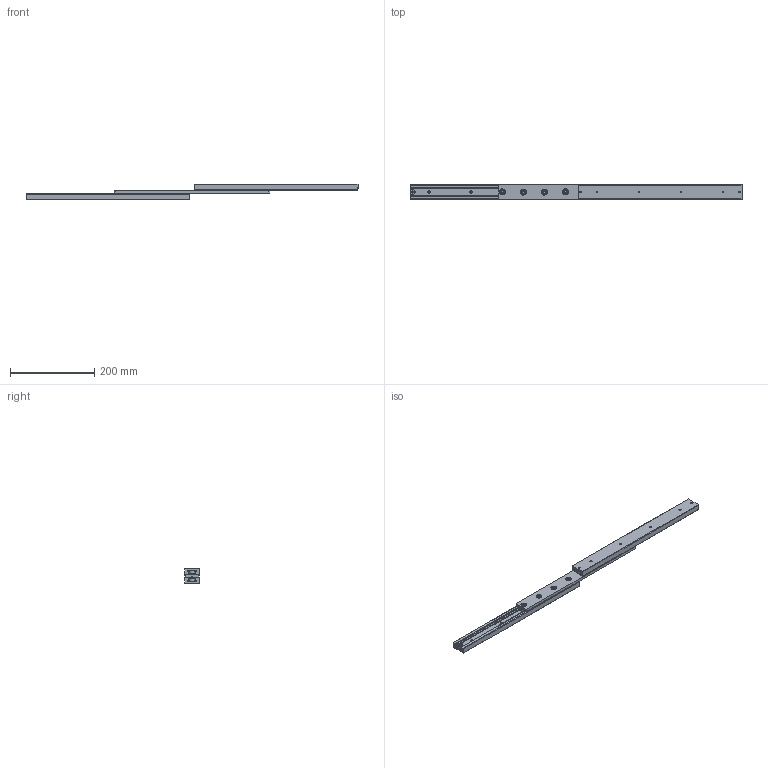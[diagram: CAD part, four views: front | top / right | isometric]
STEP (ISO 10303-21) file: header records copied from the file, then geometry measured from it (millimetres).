
FILE_DESCRIPTION (( 'STEP AP214' ), '1' );
FILE_NAME ('LSIM35DFL.STEP', '2021-06-14T01:46:36', ( '' ), ( '' ), 'SwSTEP 2.0', 'SolidWorks 2019', '' );
FILE_SCHEMA (( 'AUTOMOTIVE_DESIGN' ));
Length unit declared in the file: millimetre
Products named in the file (4): LSIM35DFLリテーナ; LSIM35DFL; LSIM35DFLレール; LSIM35ストッパー
Assembly tree (7 placements, depth 2):
  LSIM35DFL
    LSIM35DFLリテーナ
    LSIM35DFLレール  x2
    LSIM35ストッパー  x4
Bounding box: 790 x 35 x 37.5 mm (x, y, z)
Volume: 353206.1 mm3; surface area: 136680.4 mm2
Topology: 7 solids, 7 shells, 448 faces, 962 edges, 608 vertices
Faces by surface type: plane 212, cylinder 124, cone 104, torus 8
Full cylindrical faces by diameter (mm): 3.3 x4, 3.4 x8, 4 x4, 5 x12, 6.5 x8, 8 x4, 8.6 x16, 10 x8, 12 x4, 14 x8, 16 x16
Entity records: 8717 total; most frequent: CARTESIAN_POINT 1812, DIRECTION 1433, ORIENTED_EDGE 1262, AXIS2_PLACEMENT_3D 635, EDGE_CURVE 631, EDGE_LOOP 511, VERTEX_POINT 438, FACE_OUTER_BOUND 427
